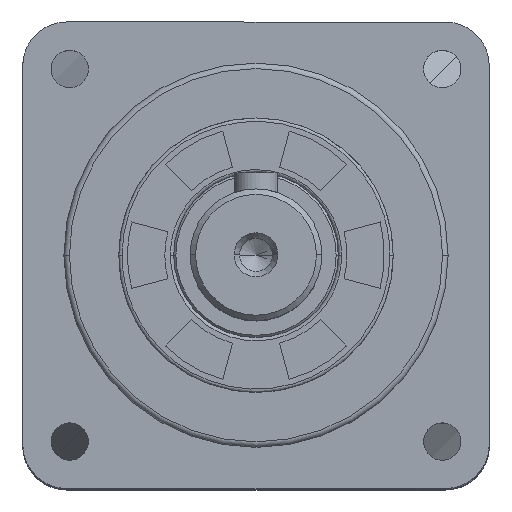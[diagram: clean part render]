
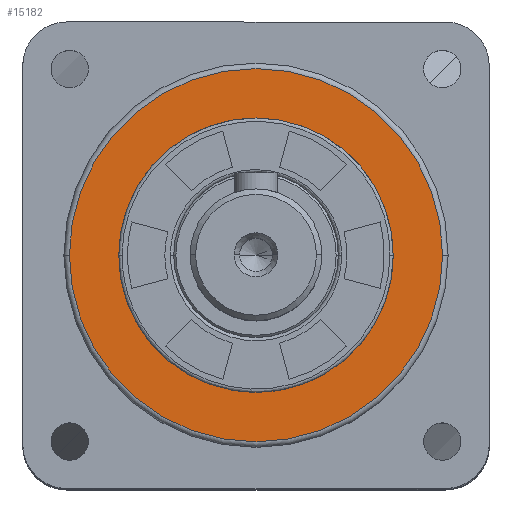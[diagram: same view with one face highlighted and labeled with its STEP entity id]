
A CAD part, top view. The second image highlights one B-rep face of the part: STEP entity #15182.
In plain terms, the highlighted planar face has unit normal (0, 0, 1).
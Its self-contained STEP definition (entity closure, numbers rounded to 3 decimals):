
#1103 = DIRECTION ( 'NONE',  ( 0., 0., 1. ) ) ;
#1221 = DIRECTION ( 'NONE',  ( 0., 0., 1. ) ) ;
#1266 = DIRECTION ( 'NONE',  ( 1., 0., 0. ) ) ;
#1303 = CARTESIAN_POINT ( 'NONE',  ( 0., 0., 14.8 ) ) ;
#1454 = VERTEX_POINT ( 'NONE', #7143 ) ;
#2968 = PLANE ( 'NONE',  #11793 ) ;
#3210 = DIRECTION ( 'NONE',  ( 0., 0., 1. ) ) ;
#4664 = CARTESIAN_POINT ( 'NONE',  ( 0., 0., 14.8 ) ) ;
#4815 = CARTESIAN_POINT ( 'NONE',  ( 0., 0., 14.8 ) ) ;
#5064 = CIRCLE ( 'NONE', #7517, 17. ) ;
#5129 = AXIS2_PLACEMENT_3D ( 'NONE', #7211, #1103, #1266 ) ;
#5385 = CIRCLE ( 'NONE', #8221, 12.5 ) ;
#5941 = FACE_BOUND ( 'NONE', #13401, .T. ) ;
#6103 = VERTEX_POINT ( 'NONE', #19339 ) ;
#6691 = DIRECTION ( 'NONE',  ( 0., 0., 1. ) ) ;
#6718 = ORIENTED_EDGE ( 'NONE', *, *, #13152, .F. ) ;
#7143 = CARTESIAN_POINT ( 'NONE',  ( -12.5, 0., 14.8 ) ) ;
#7211 = CARTESIAN_POINT ( 'NONE',  ( 0., 0., 14.8 ) ) ;
#7517 = AXIS2_PLACEMENT_3D ( 'NONE', #4664, #6691, #16759 ) ;
#7728 = CARTESIAN_POINT ( 'NONE',  ( 17., 0., 14.8 ) ) ;
#8221 = AXIS2_PLACEMENT_3D ( 'NONE', #17167, #3210, #10902 ) ;
#8603 = CIRCLE ( 'NONE', #15661, 12.5 ) ;
#8796 = FACE_OUTER_BOUND ( 'NONE', #10818, .T. ) ;
#9379 = ORIENTED_EDGE ( 'NONE', *, *, #25086, .F. ) ;
#9901 = EDGE_CURVE ( 'NONE', #15846, #6103, #5064, .T. ) ;
#10818 = EDGE_LOOP ( 'NONE', ( #15264, #11844 ) ) ;
#10902 = DIRECTION ( 'NONE',  ( 1., 0., 0. ) ) ;
#10991 = EDGE_CURVE ( 'NONE', #6103, #15846, #22857, .T. ) ;
#11793 = AXIS2_PLACEMENT_3D ( 'NONE', #4815, #13085, #16837 ) ;
#11844 = ORIENTED_EDGE ( 'NONE', *, *, #10991, .T. ) ;
#12184 = CARTESIAN_POINT ( 'NONE',  ( 12.5, 0., 14.8 ) ) ;
#13085 = DIRECTION ( 'NONE',  ( 0., 0., 1. ) ) ;
#13152 = EDGE_CURVE ( 'NONE', #22334, #1454, #5385, .T. ) ;
#13401 = EDGE_LOOP ( 'NONE', ( #6718, #9379 ) ) ;
#15182 = ADVANCED_FACE ( 'NONE', ( #5941, #8796 ), #2968, .T. ) ;
#15264 = ORIENTED_EDGE ( 'NONE', *, *, #9901, .T. ) ;
#15286 = DIRECTION ( 'NONE',  ( 1., 0., 0. ) ) ;
#15661 = AXIS2_PLACEMENT_3D ( 'NONE', #1303, #1221, #15286 ) ;
#15846 = VERTEX_POINT ( 'NONE', #7728 ) ;
#16759 = DIRECTION ( 'NONE',  ( 1., 0., 0. ) ) ;
#16837 = DIRECTION ( 'NONE',  ( 1., 0., 0. ) ) ;
#17167 = CARTESIAN_POINT ( 'NONE',  ( 0., 0., 14.8 ) ) ;
#19339 = CARTESIAN_POINT ( 'NONE',  ( -17., 0., 14.8 ) ) ;
#22334 = VERTEX_POINT ( 'NONE', #12184 ) ;
#22857 = CIRCLE ( 'NONE', #5129, 17. ) ;
#25086 = EDGE_CURVE ( 'NONE', #1454, #22334, #8603, .T. ) ;
